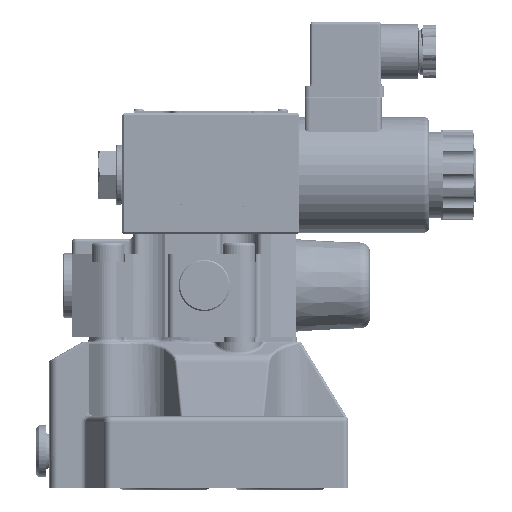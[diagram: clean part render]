
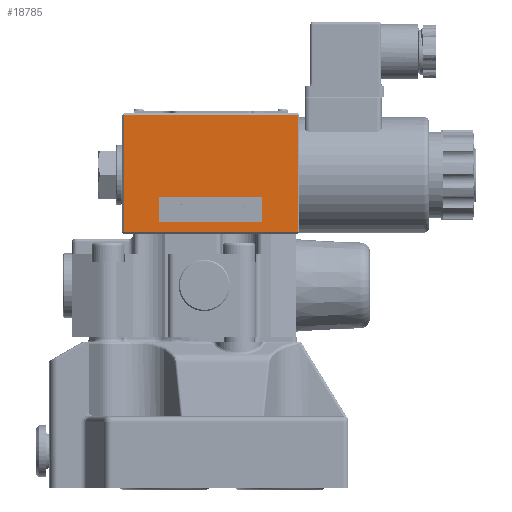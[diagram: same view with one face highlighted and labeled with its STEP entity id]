
A CAD part, front view. The second image highlights one B-rep face of the part: STEP entity #18785.
In plain terms, the highlighted planar face has unit normal (0, -1, 0).
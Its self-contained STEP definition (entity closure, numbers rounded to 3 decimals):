
#6151=LINE('',#180842,#11852);
#6152=LINE('',#180845,#11853);
#6153=LINE('',#180847,#11854);
#6154=LINE('',#180849,#11855);
#6155=LINE('',#180850,#11856);
#6156=LINE('',#180853,#11857);
#6157=LINE('',#180855,#11858);
#6158=LINE('',#180857,#11859);
#11852=VECTOR('',#70314,1.);
#11853=VECTOR('',#70315,1.);
#11854=VECTOR('',#70316,1.);
#11855=VECTOR('',#70317,1.);
#11856=VECTOR('',#70318,1.);
#11857=VECTOR('',#70319,1.);
#11858=VECTOR('',#70320,1.);
#11859=VECTOR('',#70321,1.);
#16466=FACE_BOUND('',#27160,.T.);
#16467=FACE_BOUND('',#27161,.T.);
#18785=ADVANCED_FACE('',(#16466,#16467),#21417,.F.);
#21417=PLANE('',#62364);
#27160=EDGE_LOOP('',(#36448,#36449,#36450,#36451));
#27161=EDGE_LOOP('',(#36452,#36453,#36454,#36455));
#36448=ORIENTED_EDGE('',*,*,#54489,.T.);
#36449=ORIENTED_EDGE('',*,*,#54490,.T.);
#36450=ORIENTED_EDGE('',*,*,#54491,.T.);
#36451=ORIENTED_EDGE('',*,*,#54492,.T.);
#36452=ORIENTED_EDGE('',*,*,#54493,.F.);
#36453=ORIENTED_EDGE('',*,*,#54494,.F.);
#36454=ORIENTED_EDGE('',*,*,#54495,.F.);
#36455=ORIENTED_EDGE('',*,*,#54496,.F.);
#48188=VERTEX_POINT('',#180843);
#48189=VERTEX_POINT('',#180844);
#48190=VERTEX_POINT('',#180846);
#48191=VERTEX_POINT('',#180848);
#48192=VERTEX_POINT('',#180851);
#48193=VERTEX_POINT('',#180852);
#48194=VERTEX_POINT('',#180854);
#48195=VERTEX_POINT('',#180856);
#54489=EDGE_CURVE('',#48188,#48189,#6151,.T.);
#54490=EDGE_CURVE('',#48189,#48190,#6152,.T.);
#54491=EDGE_CURVE('',#48190,#48191,#6153,.T.);
#54492=EDGE_CURVE('',#48191,#48188,#6154,.T.);
#54493=EDGE_CURVE('',#48192,#48193,#6155,.T.);
#54494=EDGE_CURVE('',#48194,#48192,#6156,.T.);
#54495=EDGE_CURVE('',#48195,#48194,#6157,.T.);
#54496=EDGE_CURVE('',#48193,#48195,#6158,.T.);
#62364=AXIS2_PLACEMENT_3D('',#180858,#70322,#70323);
#70314=DIRECTION('',(-1.,0.,0.));
#70315=DIRECTION('',(0.,0.,-1.));
#70316=DIRECTION('',(1.,0.,0.));
#70317=DIRECTION('',(0.,0.,1.));
#70318=DIRECTION('',(1.,0.,0.));
#70319=DIRECTION('',(0.,0.,-1.));
#70320=DIRECTION('',(-1.,0.,0.));
#70321=DIRECTION('',(0.,0.,1.));
#70322=DIRECTION('',(0.,1.,0.));
#70323=DIRECTION('',(1.,0.,0.));
#180842=CARTESIAN_POINT('',(-692.26,-78.682,176.3));
#180843=CARTESIAN_POINT('',(-658.46,-78.682,176.3));
#180844=CARTESIAN_POINT('',(-726.06,-78.682,176.3));
#180845=CARTESIAN_POINT('',(-726.06,-78.682,153.5));
#180846=CARTESIAN_POINT('',(-726.06,-78.682,130.7));
#180847=CARTESIAN_POINT('',(-657.76,-78.682,130.7));
#180848=CARTESIAN_POINT('',(-658.46,-78.682,130.7));
#180849=CARTESIAN_POINT('',(-658.46,-78.682,177.));
#180850=CARTESIAN_POINT('',(-712.26,-78.682,134.5));
#180851=CARTESIAN_POINT('',(-712.26,-78.682,134.5));
#180852=CARTESIAN_POINT('',(-672.26,-78.682,134.5));
#180853=CARTESIAN_POINT('',(-712.26,-78.682,144.5));
#180854=CARTESIAN_POINT('',(-712.26,-78.682,144.5));
#180855=CARTESIAN_POINT('',(-672.26,-78.682,144.5));
#180856=CARTESIAN_POINT('',(-672.26,-78.682,144.5));
#180857=CARTESIAN_POINT('',(-672.26,-78.682,134.5));
#180858=CARTESIAN_POINT('',(-692.26,-78.682,153.5));
